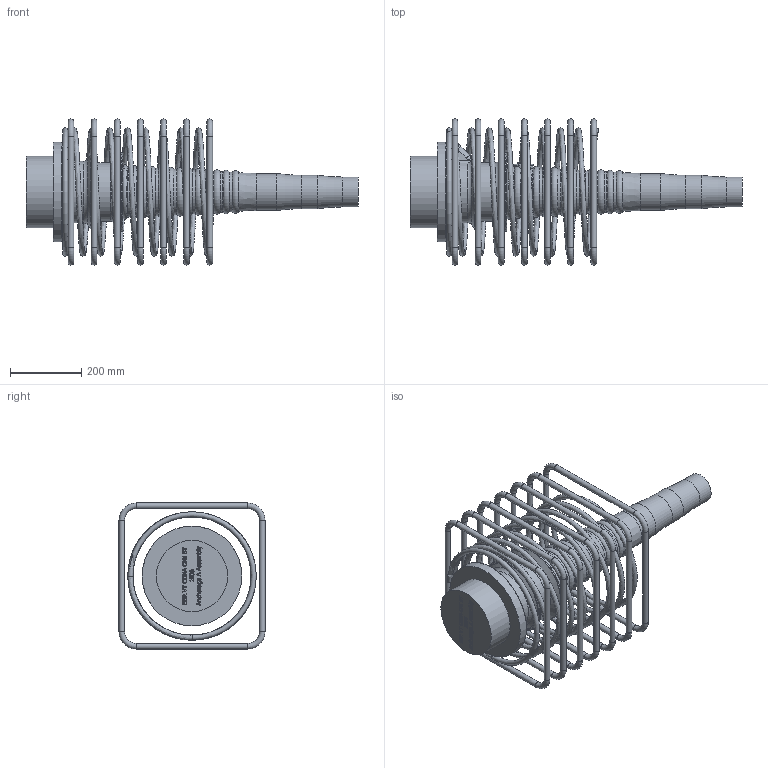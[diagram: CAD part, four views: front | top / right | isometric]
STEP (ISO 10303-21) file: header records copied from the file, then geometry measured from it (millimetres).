
FILE_DESCRIPTION(/* description */ (''),/* implementation_level */ '2;1');
FILE_NAME(/* name */ 'BBR VT CONA CMI BT 1906_Anchorage A Assembly_CS-34,28.stp',/* time_stamp */ '2025-04-28T15:38:30+02:00',/* author */ ('tk'),/* organization */ (''),/* preprocessor_version */ 'ST-DEVELOPER v20',/* originating_system */ 'Autodesk Inventor 2024',/* authorisation */ '');
FILE_SCHEMA (('AUTOMOTIVE_DESIGN { 1 0 10303 214 3 1 1 }'));
Length unit declared in the file: millimetre
Products named in the file (1): BBR VT CONA CMI BT 1906_Anchorage A Assembly_CS-34,28
Bounding box: 932 x 410 x 410 mm (x, y, z)
Volume: 18842396.3 mm3; surface area: 1538005.5 mm2
Topology: 9 solids, 9 shells, 789 faces, 2121 edges, 1393 vertices
Faces by surface type: plane 321, bspline 314, torus 83, cylinder 42, cone 19, sphere 10
Full cylindrical faces by diameter (mm): 16 x28, 34 x1, 57 x1, 84 x1, 94 x1, 104 x1, 164 x1, 200 x1, 218 x1, 223.017 x1, 280 x1
Entity records: 32673 total; most frequent: CARTESIAN_POINT 13892, ORIENTED_EDGE 4238, DIRECTION 2795, EDGE_CURVE 2119, VERTEX_POINT 1393, LINE 1109, VECTOR 1109, EDGE_LOOP 850
